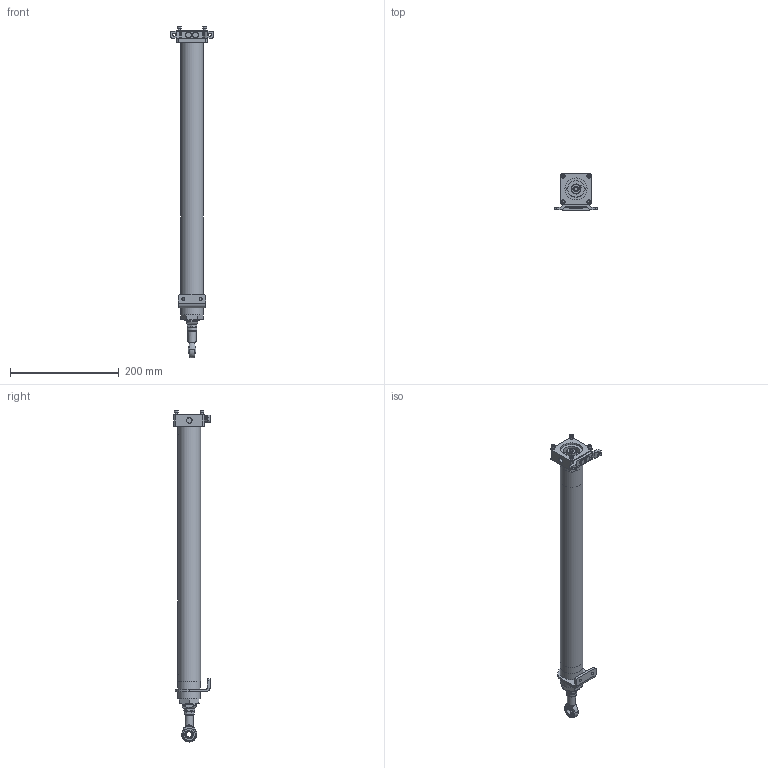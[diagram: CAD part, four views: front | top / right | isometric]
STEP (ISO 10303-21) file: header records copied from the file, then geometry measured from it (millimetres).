
FILE_DESCRIPTION (( 'STEP AP203' ), '1' );
FILE_NAME ('ERD15_BZ10_SM406.400_ERD-479470-1.step', '2025-01-21T18:17:49', ( '' ), ( '' ), 'SwSTEP 2.0', 'SolidWorks 2024', '' );
FILE_SCHEMA (( 'CONFIG_CONTROL_DESIGN' ));
Length unit declared in the file: inch
Products named in the file (6): Base_ERD15_BZ10_SM406.400_ERD-479470-1; tempJoin1_21929167_ERD15_BZ10_SM406.400_ERD-479470-1; 27229014_ERD15_BZ10_SM406.400_ERD-479470-1; tempJoin1_21929003_ERD15_BZ10_SM406.400_ERD-479470-1; 21929201_ERD15_BZ10_SM406.400_ERD-479470-1; ERD15_BZ10_SM406.400_ERD-479470-1
Assembly tree (5 placements, depth 2):
  ERD15_BZ10_SM406.400_ERD-479470-1
    tempJoin1_21929167_ERD15_BZ10_SM406.400_ERD-479470-1
    27229014_ERD15_BZ10_SM406.400_ERD-479470-1
    21929201_ERD15_BZ10_SM406.400_ERD-479470-1
    tempJoin1_21929003_ERD15_BZ10_SM406.400_ERD-479470-1
    Base_ERD15_BZ10_SM406.400_ERD-479470-1
Bounding box: 79.01 x 66.7 x 611.38 mm (x, y, z)
Volume: 492902.6 mm3; surface area: 213908.9 mm2
Topology: 7 solids, 14 shells, 394 faces, 911 edges, 580 vertices
Faces by surface type: plane 201, cylinder 95, cone 64, bspline 18, torus 13, sphere 3
Full cylindrical faces by diameter (mm): 2.499 x1, 3 x1, 3.3 x4, 3.581 x1, 4 x4, 5 x2, 5.499 x1, 5.613 x4, 6 x2, 6.369 x1, 6.375 x1, 7 x4, 7.137 x2, 8.026 x1, 8.75 x1, 8.8 x1, 9.525 x2, 9.884 x2, 10 x3, 11.252 x2, 15 x1, 22 x1, 22.001 x1, 26.391 x1, 26.4 x1, 26.416 x1, 26.492 x1, 27.94 x3, 30.074 x1, 31.992 x1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
Entity records: 12262 total; most frequent: CARTESIAN_POINT 3366, DIRECTION 1714, ORIENTED_EDGE 1548, EDGE_CURVE 774, AXIS2_PLACEMENT_3D 692, EDGE_LOOP 556, VERTEX_POINT 536, FACE_OUTER_BOUND 458
